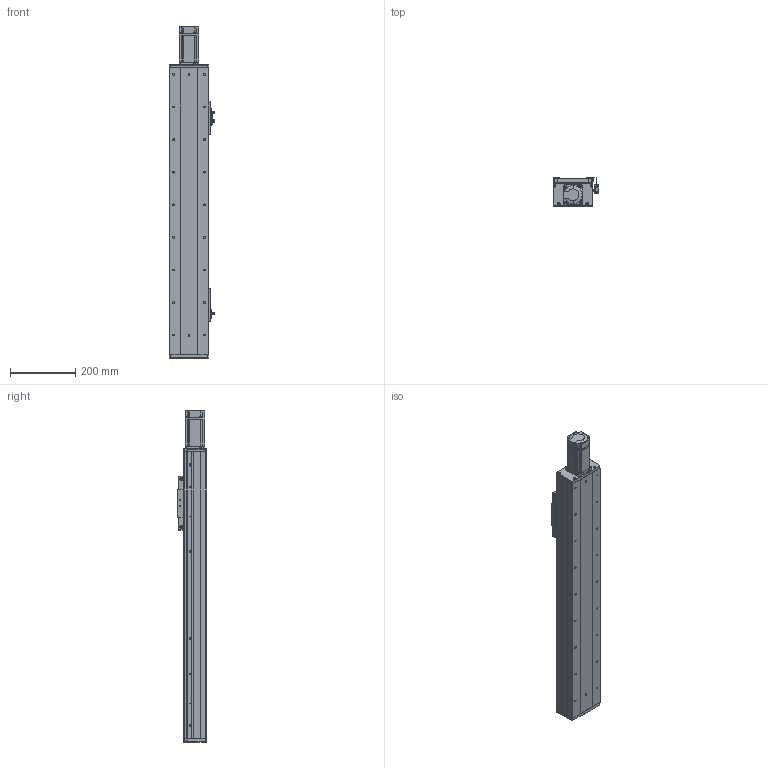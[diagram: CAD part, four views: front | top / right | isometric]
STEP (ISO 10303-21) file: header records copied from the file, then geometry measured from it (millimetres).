
FILE_DESCRIPTION (( 'STEP AP203' ), '1' );
FILE_NAME ('RY120F-L1620-300-MK.SLDASM_600.step', '2021-03-02T06:02:07', ( '盈信电脑' ), ( '东莞市道滘镇水果街19号' ), 'SwSTEP 2.0', 'SolidWorks 2012', '' );
FILE_SCHEMA (( 'CONFIG_CONTROL_DESIGN' ));
Products named in the file (19): RY120F-L1620-300-MK.SLDASM_600; RY120F-臏賑輸 16蹟譫; 滅袉蝶18-28; 覜茼ん672; 672嫖萇羲壽假蚾釱; FY120F詩湍揤踡輸; RY80俋离覜茼え; RY120F-詩湍幗謫粣; 滅袉蝶18-24; RY120F祥凄詩滅鳥裔; RY120F綴裔啣(臏璃ㄘ; 侂狟400W侜督萇儂; RY120F-臏賑輸奻釱; 15; RY120F眻蟀ヶ裔啣; 絳寢賑輸EGH15; RY120F-300-倰第裔啣_600; RY120F滅鳥詩湍-300-MK_600; RY120F-300-倰第菁釱_600
Assembly tree (25 placements, depth 3):
  RY120F-L1620-300-MK.SLDASM_600
    RY120F-300-倰第菁釱_600
    RY120F-300-倰第裔啣_600  x2
    RY120F滅鳥詩湍-300-MK_600
    絳寢賑輸EGH15  x2
    RY120F-臏賑輸奻釱
    侂狟400W侜督萇儂
      15
    RY120F眻蟀ヶ裔啣
    RY120F祥凄詩滅鳥裔
    滅袉蝶18-24
    RY120F綴裔啣(臏璃ㄘ
    RY120F-詩湍幗謫粣
    覜茼ん672  x3
    672嫖萇羲壽假蚾釱  x2
    RY80俋离覜茼え
    FY120F詩湍揤踡輸  x2
    RY120F-臏賑輸 16蹟譫
    滅袉蝶18-28  x2
Bounding box: 140.35 x 89 x 1018.5 mm (x, y, z)
Volume: 3249434.4 mm3; surface area: 1135609.9 mm2
Topology: 24 solids, 24 shells, 2137 faces, 5705 edges, 3667 vertices
Faces by surface type: plane 966, cylinder 950, cone 203, bspline 18
Entity records: 56882 total; most frequent: CARTESIAN_POINT 10143, DIRECTION 9663, ORIENTED_EDGE 9022, EDGE_CURVE 4511, AXIS2_PLACEMENT_3D 3489, VERTEX_POINT 2951, VECTOR 2685, LINE 2685
